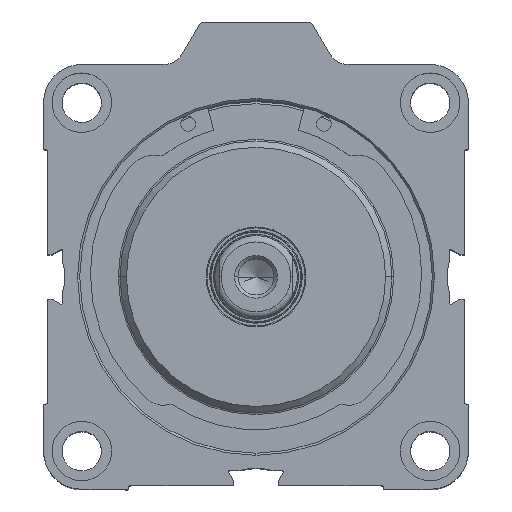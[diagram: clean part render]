
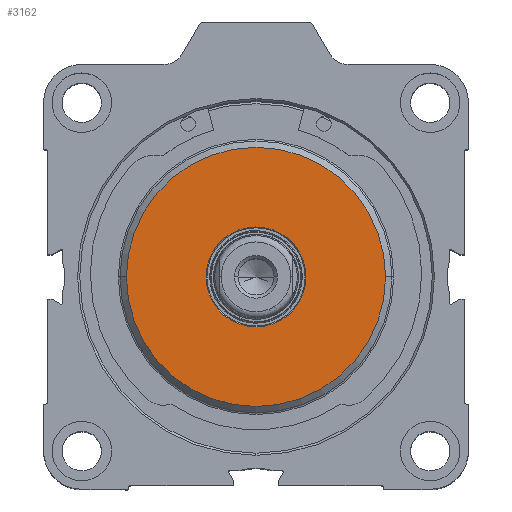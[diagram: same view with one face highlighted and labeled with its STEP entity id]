
A CAD part, top view. The second image highlights one B-rep face of the part: STEP entity #3162.
In plain terms, the highlighted planar face has unit normal (0, 0, 1) as drawn and (-1, 0, 0) by its records, which use the part's own axes.
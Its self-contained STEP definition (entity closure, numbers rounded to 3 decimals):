
#314 = CARTESIAN_POINT ( 'NONE',  ( 0., 0., 0. ) ) ;
#434 = CIRCLE ( 'NONE', #1462, 11.75 ) ;
#753 = CARTESIAN_POINT ( 'NONE',  ( 0., 32., 0. ) ) ;
#775 = VERTEX_POINT ( 'NONE', #4351 ) ;
#1317 = EDGE_LOOP ( 'NONE', ( #11117, #3465 ) ) ;
#1379 = AXIS2_PLACEMENT_3D ( 'NONE', #753, #6211, #3526 ) ;
#1462 = AXIS2_PLACEMENT_3D ( 'NONE', #7938, #9786, #5958 ) ;
#1589 = VERTEX_POINT ( 'NONE', #2309 ) ;
#2137 = EDGE_LOOP ( 'NONE', ( #7416, #6421 ) ) ;
#2309 = CARTESIAN_POINT ( 'NONE',  ( 0., 0., -30.5 ) ) ;
#2337 = FACE_OUTER_BOUND ( 'NONE', #2137, .T. ) ;
#3032 = CARTESIAN_POINT ( 'NONE',  ( 0., 0., 0. ) ) ;
#3162 = ADVANCED_FACE ( 'NONE', ( #9489, #2337 ), #7181, .F. ) ;
#3235 = CIRCLE ( 'NONE', #8336, 30.5 ) ;
#3465 = ORIENTED_EDGE ( 'NONE', *, *, #6352, .T. ) ;
#3526 = DIRECTION ( 'NONE',  ( 0., 0., -1. ) ) ;
#4039 = EDGE_CURVE ( 'NONE', #6710, #775, #434, .T. ) ;
#4279 = VERTEX_POINT ( 'NONE', #11062 ) ;
#4351 = CARTESIAN_POINT ( 'NONE',  ( 0., 0., -11.75 ) ) ;
#4446 = CARTESIAN_POINT ( 'NONE',  ( 0., 0., 11.75 ) ) ;
#5780 = EDGE_CURVE ( 'NONE', #4279, #1589, #9593, .T. ) ;
#5833 = DIRECTION ( 'NONE',  ( -1., 0., 0. ) ) ;
#5958 = DIRECTION ( 'NONE',  ( 0., 0., -1. ) ) ;
#6211 = DIRECTION ( 'NONE',  ( 1., 0., 0. ) ) ;
#6352 = EDGE_CURVE ( 'NONE', #775, #6710, #6418, .T. ) ;
#6418 = CIRCLE ( 'NONE', #11345, 11.75 ) ;
#6421 = ORIENTED_EDGE ( 'NONE', *, *, #5780, .T. ) ;
#6710 = VERTEX_POINT ( 'NONE', #4446 ) ;
#7181 = PLANE ( 'NONE',  #1379 ) ;
#7195 = EDGE_CURVE ( 'NONE', #1589, #4279, #3235, .T. ) ;
#7416 = ORIENTED_EDGE ( 'NONE', *, *, #7195, .T. ) ;
#7601 = DIRECTION ( 'NONE',  ( 1., 0., 0. ) ) ;
#7938 = CARTESIAN_POINT ( 'NONE',  ( 0., 0., 0. ) ) ;
#8336 = AXIS2_PLACEMENT_3D ( 'NONE', #9985, #8994, #10918 ) ;
#8994 = DIRECTION ( 'NONE',  ( -1., 0., 0. ) ) ;
#9489 = FACE_BOUND ( 'NONE', #1317, .T. ) ;
#9593 = CIRCLE ( 'NONE', #10587, 30.5 ) ;
#9786 = DIRECTION ( 'NONE',  ( 1., 0., 0. ) ) ;
#9985 = CARTESIAN_POINT ( 'NONE',  ( 0., 0., 0. ) ) ;
#10587 = AXIS2_PLACEMENT_3D ( 'NONE', #314, #5833, #11397 ) ;
#10918 = DIRECTION ( 'NONE',  ( 0., 0., -1. ) ) ;
#11062 = CARTESIAN_POINT ( 'NONE',  ( 0., 0., 30.5 ) ) ;
#11117 = ORIENTED_EDGE ( 'NONE', *, *, #4039, .T. ) ;
#11206 = DIRECTION ( 'NONE',  ( 0., 0., -1. ) ) ;
#11345 = AXIS2_PLACEMENT_3D ( 'NONE', #3032, #7601, #11206 ) ;
#11397 = DIRECTION ( 'NONE',  ( 0., 0., -1. ) ) ;
